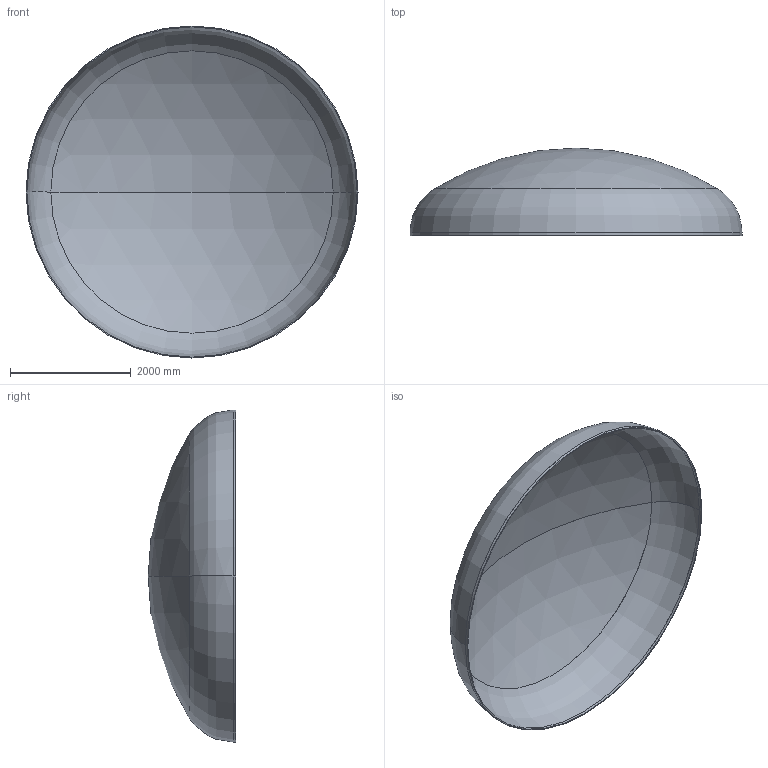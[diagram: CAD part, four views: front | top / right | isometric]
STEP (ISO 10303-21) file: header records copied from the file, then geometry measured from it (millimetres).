
FILE_DESCRIPTION (( 'STEP AP203' ), '1' );
FILE_NAME ('DIN 28013 Korbbogenform_-_Boden DIN 28013 - 5500 x 45 - I - s=15.step', '2016-07-04T10:33:37', ( '' ), ( '' ), 'SwSTEP 2.0', 'SolidWorks 2013', '' );
FILE_SCHEMA (( 'CONFIG_CONTROL_DESIGN' ));
Length unit declared in the file: millimetre
Products named in the file (1): DIN 28013 Korbbogenform_-_Boden DIN 28013 - 5500 x 45 - I - s=15
Bounding box: 5500 x 1449.03 x 5500 mm (x, y, z)
Volume: 503240013.8 mm3; surface area: 67357586.8 mm2
Topology: 1 solids, 1 shells, 13 faces, 24 edges, 14 vertices
Faces by surface type: torus 4, cylinder 4, sphere 4, plane 1
Entity records: 407 total; most frequent: DIRECTION 72, CARTESIAN_POINT 52, ORIENTED_EDGE 48, AXIS2_PLACEMENT_3D 34, EDGE_CURVE 24, CIRCLE 20, VERTEX_POINT 14, EDGE_LOOP 14
